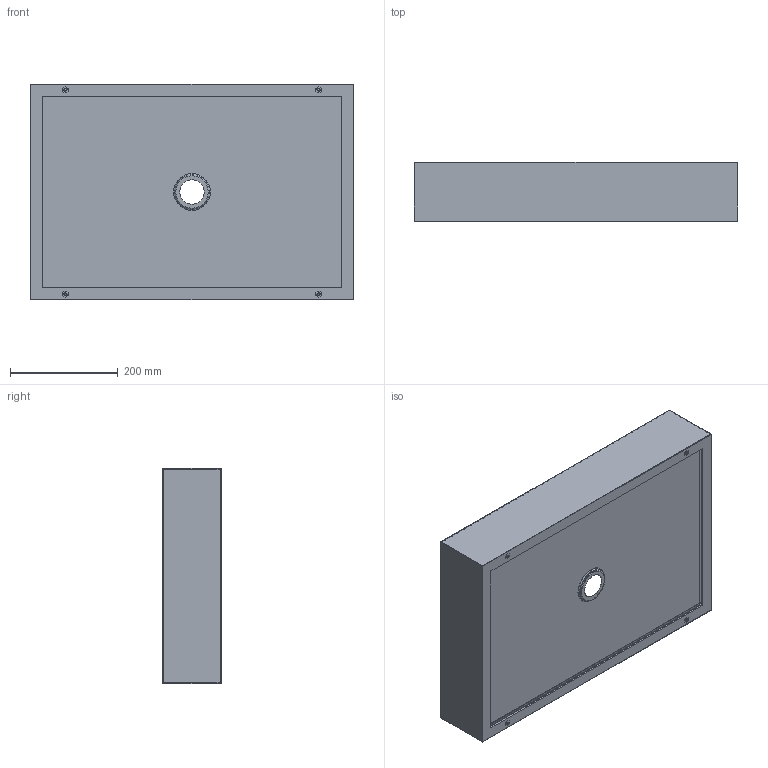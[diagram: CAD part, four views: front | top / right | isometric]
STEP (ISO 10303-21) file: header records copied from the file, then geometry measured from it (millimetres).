
FILE_DESCRIPTION (( 'STEP AP203' ), '1' );
FILE_NAME ('6040-1.STEP', '2024-12-17T09:18:03', ( 'a' ), ( '' ), 'SwSTEP 2.0', 'SolidWorks 2018', '' );
FILE_SCHEMA (( 'CONFIG_CONTROL_DESIGN' ));
Length unit declared in the file: millimetre
Products named in the file (1): 6040-1
Bounding box: 600 x 110 x 400 mm (x, y, z)
Volume: 972737 mm3; surface area: 1334708.9 mm2
Topology: 1 solids, 1 shells, 170 faces, 402 edges, 232 vertices
Faces by surface type: plane 84, cylinder 54, torus 16, sphere 16
Entity records: 4783 total; most frequent: DIRECTION 848, CARTESIAN_POINT 801, ORIENTED_EDGE 772, EDGE_CURVE 386, AXIS2_PLACEMENT_3D 295, LINE 258, VECTOR 258, VERTEX_POINT 232
